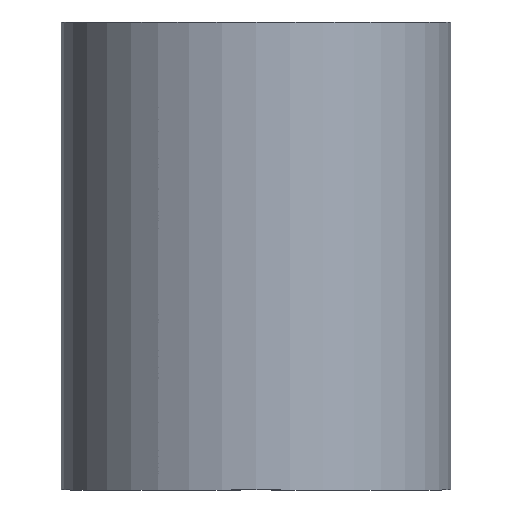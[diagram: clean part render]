
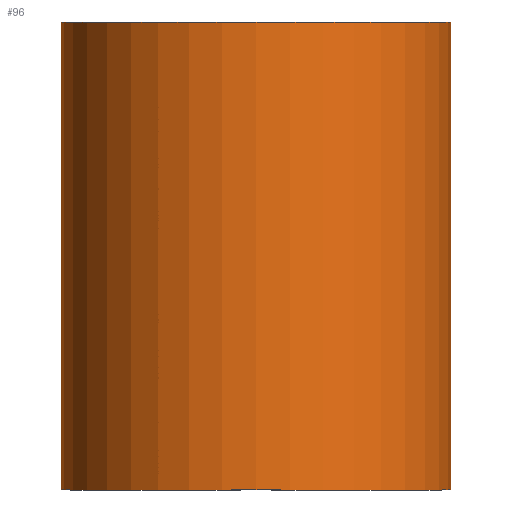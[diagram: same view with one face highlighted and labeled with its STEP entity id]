
A CAD part, front view. The second image highlights one B-rep face of the part: STEP entity #96.
In plain terms, the highlighted cylindrical face has radius 5 mm (diameter 10 mm), a full revolution.
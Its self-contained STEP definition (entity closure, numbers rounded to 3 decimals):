
#19=FACE_BOUND('',#36,.T.);
#23=CIRCLE('',#126,5.);
#24=CIRCLE('',#128,5.);
#28=FACE_OUTER_BOUND('',#35,.T.);
#35=EDGE_LOOP('',(#81,#82,#83,#84));
#36=EDGE_LOOP('',(#85,#86,#87));
#41=LINE('',#244,#44);
#44=VECTOR('',#150,5.);
#45=B_SPLINE_CURVE_WITH_KNOTS('',3,(#157,#158,#159,#160,#161,#162,#163,
#164,#165,#166,#167,#168,#169,#170,#171,#172,#173,#174),.UNSPECIFIED.,.F.,
 .F.,(4,2,2,2,2,2,2,2,4),(0.228,0.284,0.341,
0.398,0.455,0.512,0.569,
0.626,0.683),.UNSPECIFIED.);
#46=B_SPLINE_CURVE_WITH_KNOTS('',3,(#176,#177,#178,#179,#180,#181,#182,
#183,#184,#185),.UNSPECIFIED.,.F.,.F.,(4,2,2,2,4),(0.91,0.967,
1.024,1.081,1.138),.UNSPECIFIED.);
#48=B_SPLINE_CURVE_WITH_KNOTS('',3,(#222,#223,#224,#225,#226,#227,#228,
#229,#230,#231),.UNSPECIFIED.,.F.,.F.,(4,2,2,2,4),(0.683,0.739,
0.796,0.853,0.91),.UNSPECIFIED.);
#49=VERTEX_POINT('',#155);
#50=VERTEX_POINT('',#156);
#51=VERTEX_POINT('',#175);
#55=VERTEX_POINT('',#239);
#56=VERTEX_POINT('',#242);
#57=EDGE_CURVE('',#49,#50,#45,.T.);
#58=EDGE_CURVE('',#51,#49,#46,.T.);
#61=EDGE_CURVE('',#50,#51,#48,.T.);
#65=EDGE_CURVE('',#55,#55,#23,.T.);
#66=EDGE_CURVE('',#56,#56,#24,.T.);
#67=EDGE_CURVE('',#56,#55,#41,.T.);
#81=ORIENTED_EDGE('',*,*,#66,.F.);
#82=ORIENTED_EDGE('',*,*,#67,.T.);
#83=ORIENTED_EDGE('',*,*,#65,.T.);
#84=ORIENTED_EDGE('',*,*,#67,.F.);
#85=ORIENTED_EDGE('',*,*,#57,.T.);
#86=ORIENTED_EDGE('',*,*,#61,.T.);
#87=ORIENTED_EDGE('',*,*,#58,.T.);
#92=CYLINDRICAL_SURFACE('',#127,5.);
#96=ADVANCED_FACE('',(#28,#19),#92,.T.);
#126=AXIS2_PLACEMENT_3D('',#240,#144,#145);
#127=AXIS2_PLACEMENT_3D('',#241,#146,#147);
#128=AXIS2_PLACEMENT_3D('',#243,#148,#149);
#144=DIRECTION('center_axis',(0.,0.,-1.));
#145=DIRECTION('ref_axis',(1.,0.,0.));
#146=DIRECTION('center_axis',(0.,0.,-1.));
#147=DIRECTION('ref_axis',(0.,1.,0.));
#148=DIRECTION('center_axis',(0.,0.,-1.));
#149=DIRECTION('ref_axis',(1.,0.,0.));
#150=DIRECTION('',(0.,0.,1.));
#155=CARTESIAN_POINT('',(0.,5.,-1.5));
#156=CARTESIAN_POINT('',(0.,5.,-4.5));
#157=CARTESIAN_POINT('Ctrl Pts',(0.,5.,-1.5));
#158=CARTESIAN_POINT('Ctrl Pts',(-0.19,5.,-1.5));
#159=CARTESIAN_POINT('Ctrl Pts',(-0.391,4.988,-1.538));
#160=CARTESIAN_POINT('Ctrl Pts',(-0.76,4.945,-1.692));
#161=CARTESIAN_POINT('Ctrl Pts',(-0.928,4.915,-1.807));
#162=CARTESIAN_POINT('Ctrl Pts',(-1.193,4.857,-2.072));
#163=CARTESIAN_POINT('Ctrl Pts',(-1.308,4.826,-2.24));
#164=CARTESIAN_POINT('Ctrl Pts',(-1.462,4.782,-2.609));
#165=CARTESIAN_POINT('Ctrl Pts',(-1.5,4.77,-2.81));
#166=CARTESIAN_POINT('Ctrl Pts',(-1.5,4.77,-3.19));
#167=CARTESIAN_POINT('Ctrl Pts',(-1.462,4.782,-3.391));
#168=CARTESIAN_POINT('Ctrl Pts',(-1.308,4.826,-3.76));
#169=CARTESIAN_POINT('Ctrl Pts',(-1.193,4.857,-3.928));
#170=CARTESIAN_POINT('Ctrl Pts',(-0.928,4.915,-4.193));
#171=CARTESIAN_POINT('Ctrl Pts',(-0.76,4.945,-4.308));
#172=CARTESIAN_POINT('Ctrl Pts',(-0.391,4.988,-4.462));
#173=CARTESIAN_POINT('Ctrl Pts',(-0.19,5.,-4.5));
#174=CARTESIAN_POINT('Ctrl Pts',(0.,5.,-4.5));
#175=CARTESIAN_POINT('',(1.5,4.77,-3.));
#176=CARTESIAN_POINT('Ctrl Pts',(1.5,4.77,-3.));
#177=CARTESIAN_POINT('Ctrl Pts',(1.5,4.77,-2.81));
#178=CARTESIAN_POINT('Ctrl Pts',(1.462,4.782,-2.609));
#179=CARTESIAN_POINT('Ctrl Pts',(1.308,4.826,-2.24));
#180=CARTESIAN_POINT('Ctrl Pts',(1.193,4.857,-2.072));
#181=CARTESIAN_POINT('Ctrl Pts',(0.928,4.915,-1.807));
#182=CARTESIAN_POINT('Ctrl Pts',(0.76,4.945,-1.692));
#183=CARTESIAN_POINT('Ctrl Pts',(0.391,4.988,-1.538));
#184=CARTESIAN_POINT('Ctrl Pts',(0.19,5.,-1.5));
#185=CARTESIAN_POINT('Ctrl Pts',(0.,5.,-1.5));
#222=CARTESIAN_POINT('Ctrl Pts',(0.,5.,-4.5));
#223=CARTESIAN_POINT('Ctrl Pts',(0.19,5.,-4.5));
#224=CARTESIAN_POINT('Ctrl Pts',(0.391,4.988,-4.462));
#225=CARTESIAN_POINT('Ctrl Pts',(0.76,4.945,-4.308));
#226=CARTESIAN_POINT('Ctrl Pts',(0.928,4.915,-4.193));
#227=CARTESIAN_POINT('Ctrl Pts',(1.193,4.857,-3.928));
#228=CARTESIAN_POINT('Ctrl Pts',(1.308,4.826,-3.76));
#229=CARTESIAN_POINT('Ctrl Pts',(1.462,4.782,-3.391));
#230=CARTESIAN_POINT('Ctrl Pts',(1.5,4.77,-3.19));
#231=CARTESIAN_POINT('Ctrl Pts',(1.5,4.77,-3.));
#239=CARTESIAN_POINT('',(0.,-5.,6.));
#240=CARTESIAN_POINT('Origin',(0.,0.,6.));
#241=CARTESIAN_POINT('Origin',(0.,0.,0.));
#242=CARTESIAN_POINT('',(0.,-5.,-6.));
#243=CARTESIAN_POINT('Origin',(0.,0.,-6.));
#244=CARTESIAN_POINT('',(0.,-5.,0.));
